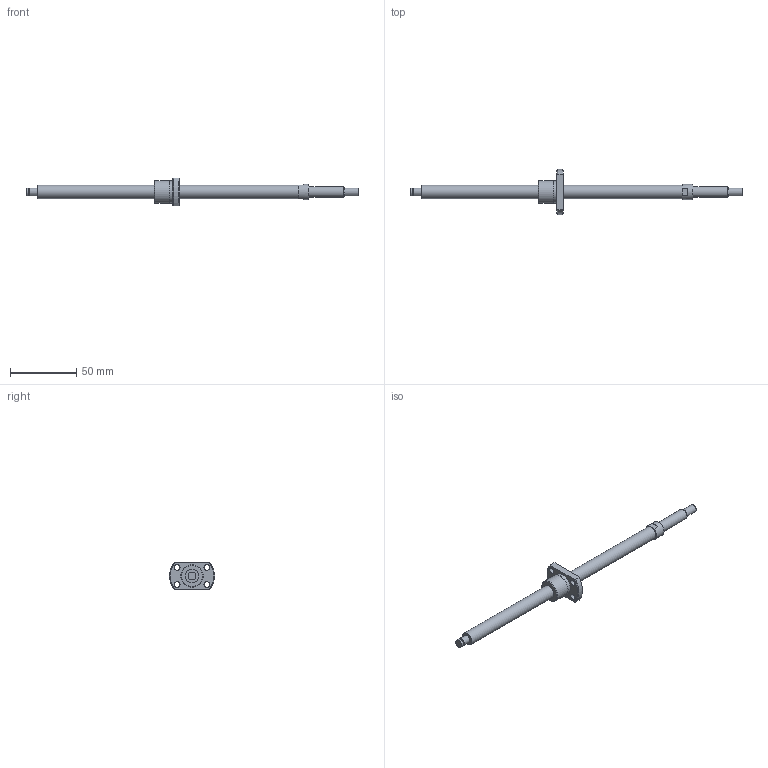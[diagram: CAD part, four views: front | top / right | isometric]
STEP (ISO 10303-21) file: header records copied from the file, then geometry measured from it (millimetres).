
FILE_DESCRIPTION(/* description */ ('STEP AP214'),/* implementation_level */ '2;1');
FILE_NAME(/* name */ 'SRT1002K-192R250C7B0X(B87.5Processing0X)',/* time_stamp */ '2026-08-06T15:08:47+02:00',/* author */ ('License CC BY-ND 4.0'),/* organization */ ('CADENAS'),/* preprocessor_version */ 'ST-DEVELOPER v20',/* originating_system */ 'PARTsolutions',/* authorisation */ ' ');
FILE_SCHEMA (('AUTOMOTIVE_DESIGN {1 0 10303 214 3 1 1}'));
Length unit declared in the file: millimetre
Products named in the file (3): SRT1002K-192R250C7B0X(B87.5Processing0X); 10BProcessing250; SR1002K_nut
Assembly tree (2 placements, depth 2):
  SRT1002K-192R250C7B0X(B87.5Processing0X)
    10BProcessing250
    SR1002K_nut
Bounding box: 250 x 34 x 21 mm (x, y, z)
Volume: 22731.5 mm3; surface area: 10816.5 mm2
Topology: 2 solids, 2 shells, 41 faces, 85 edges, 55 vertices
Faces by surface type: plane 19, cylinder 16, cone 6
Full cylindrical faces by diameter (mm): 4.5 x4, 5.7 x1, 6 x3, 8 x1, 10 x2, 11.5 x1, 16.6 x1, 17 x1
Entity records: 1115 total; most frequent: DIRECTION 190, CARTESIAN_POINT 190, ORIENTED_EDGE 136, AXIS2_PLACEMENT_3D 86, EDGE_LOOP 74, FACE_BOUND 74, EDGE_CURVE 68, VERTEX_POINT 54
